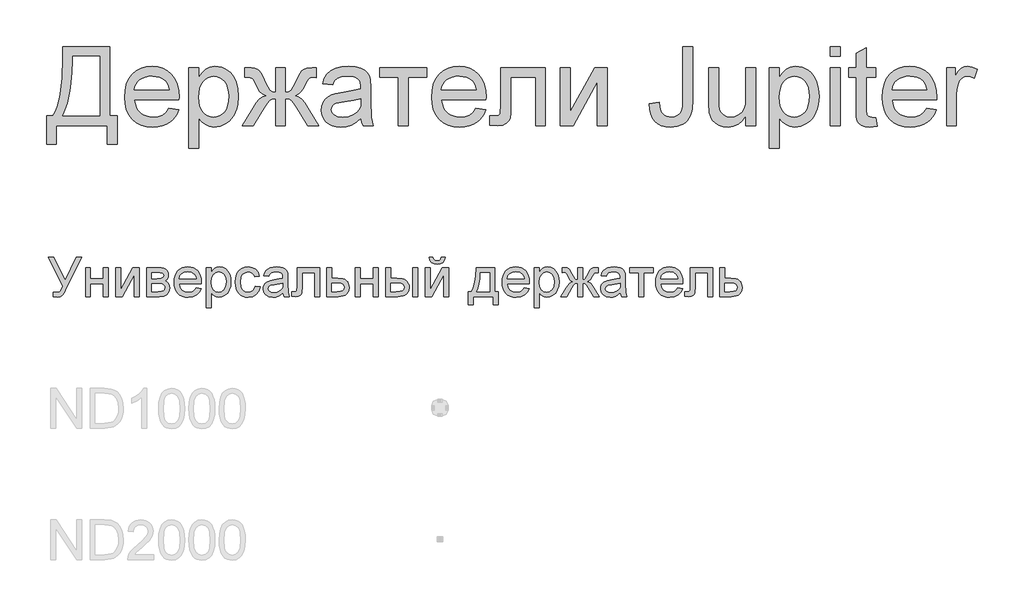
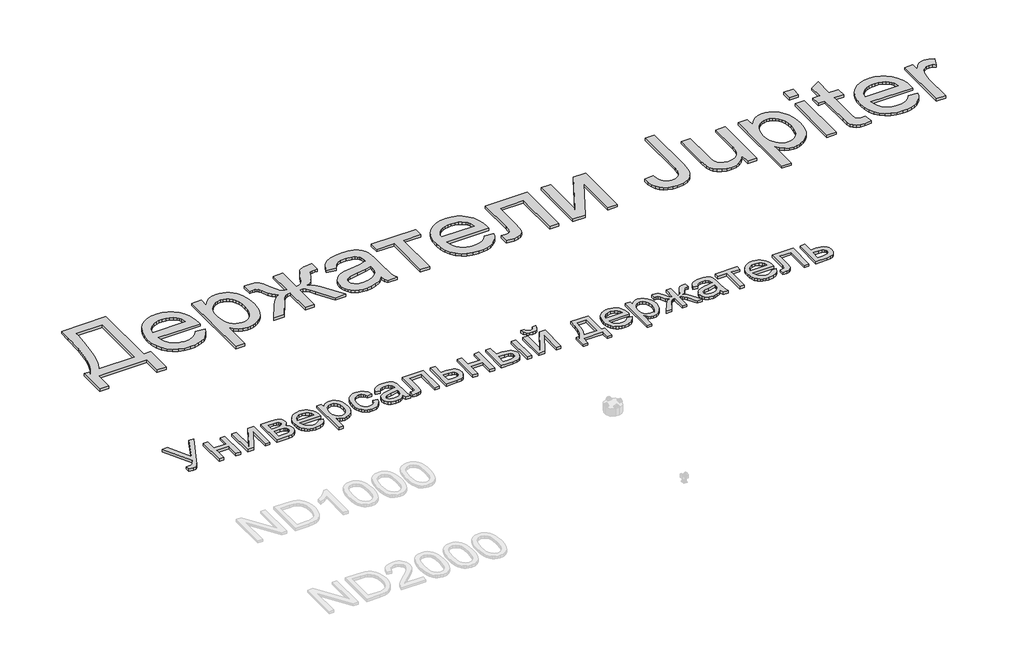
# One storey, part 101 of 124: 2 proxies.
"""IFC4 building model written with IfcOpenShell, lengths in millimetres."""

from ifc_helpers import new_model, si_unit, origin, origin_with_axes, place, context, project, spatial, polyline, outline, extrude, element, save

model = new_model("IFC4")

# Units and contexts
model_context = context("Model", 3, world=origin())
ifc_project = project(units=[si_unit("LENGTHUNIT", "METRE", prefix="MILLI")], contexts=[model_context])

# Site, building, storey
site = spatial("IfcSite", under=ifc_project)
building = spatial("IfcBuilding", under=site)
storey = spatial("IfcBuildingStorey", under=building, Name="Этаж 01", Elevation=0.0)

# Proxies
placement = place(None, origin())
element("IfcBuildingElementProxy", 1, Name="600 мм Arial", ObjectType="600 мм Arial", at=placement, inside=storey, context=model_context, shape_type="SweptSolid", body=[
    extrude(outline(polyline([(14229.6360288, -2616.7762424), (14587.5116337, -2616.7762424), (14587.5116337, -3144.1718706), (14644.0183081, -3144.1718706), (14644.0183081, -3360.7807894), (14568.6760755, -3360.7807894), (14568.6760755, -3219.5141033), (14182.5471334, -3219.5141033), (14182.5471334, -3360.7807894), (14107.2049008, -3360.7807894), (14107.2049008, -3144.1718706), (14154.2937961, -3144.1718706), (14171.9521319, -3113.4744174), (14187.2560229, -3075.828593), (14200.2054691, -3031.2343974), (14210.8004706, -2979.6918306), (14224.9271392, -2855.7615835), (14229.6360288, -2704.0378516), (14229.6360288, -2616.7762424)]), holes=[polyline([(14512.1694011, -2692.118475), (14304.9782614, -2692.118475), (14304.9782614, -2722.4319514), (14301.1522886, -2811.790488), (14289.6743704, -2928.8873271), (14280.1830149, -2991.4548574), (14267.0128395, -3048.1914581), (14250.1638441, -3099.0971292), (14229.6360288, -3144.1718706), (14512.1694011, -3144.1718706), (14512.1694011, -2692.118475)])]), origin_with_axes(), (0.0, 0.0, 1.0), 20.0),
    extrude(outline(polyline([(15038.6821125, -3087.6651962), (15112.5528172, -3097.0829753), (15101.2266503, -3126.6698847), (15085.9365548, -3152.7435211), (15066.6825309, -3175.3038845), (15043.4645785, -3194.3509748), (15016.5218209, -3209.4801218), (14986.0933813, -3220.2866555), (14952.1792599, -3226.7705756), (14914.7794566, -3228.9318823), (14868.030852, -3225.2024786), (14826.3774131, -3214.0142674), (14789.8191399, -3195.3672488), (14758.3560322, -3169.2614227), (14733.054948, -3136.4233561), (14714.982745, -3097.579616), (14704.1394232, -3052.7302022), (14700.5249826, -3001.8751149), (14704.1762114, -2949.2955808), (14715.1298978, -2902.9516464), (14733.3860418, -2862.8433119), (14758.9446434, -2828.9705772), (14790.3249776, -2802.0600092), (14826.0463193, -2782.838175), (14866.1086686, -2771.3050744), (14910.5120254, -2767.4607076), (14953.485241, -2771.2958774), (14992.3473753, -2782.8013868), (15027.0984282, -2801.9772358), (15057.7383999, -2828.8234244), (15082.749777, -2862.6225827), (15100.6150464, -2902.6573408), (15111.3342081, -2948.9276988), (15114.9072619, -3001.4336565), (15114.4658036, -3021.7407427), (14775.8672152, -3021.7407427), (14780.2312154, -3051.8058987), (14788.9086319, -3078.1370525), (14801.8994649, -3100.7342041), (14819.2037142, -3119.5973534), (14839.8648868, -3134.468983), (14862.9264894, -3145.0915756), (14888.3885219, -3151.4651312), (14916.2509846, -3153.5896497), (14956.350122, -3149.6533124), (14990.1216892, -3137.8443003), (15017.565686, -3117.4268496), (15038.6821125, -3087.6651962)]), holes=[polyline([(14775.8672152, -2946.39851), (15039.5650293, -2946.39851), (15029.3746981, -2906.5936782), (15020.6099095, -2890.9402993), (15009.3987057, -2878.1196117), (14988.8524963, -2862.6685679), (14965.4735955, -2851.6321081), (14939.2620034, -2845.0102322), (14910.2177198, -2842.8029402), (14883.7256177, -2844.5641753), (14859.4316104, -2849.8478804), (14837.3356981, -2858.6540557), (14817.4378806, -2870.982701), (14800.7406366, -2886.2635994), (14788.2464443, -2903.9265337), (14779.9553039, -2923.9715039), (14775.8672152, -2946.39851)])]), origin_with_axes(), (0.0, 0.0, 1.0), 20.0),
    extrude(outline(polyline([(15190.2494946, -3389.0341266), (15190.2494946, -2776.8784867), (15265.5917272, -2776.8784867), (15265.5917272, -2850.7491913), (15290.1662445, -2814.3104797), (15317.6838177, -2788.2828285), (15349.7631277, -2772.6662378), (15388.0228552, -2767.4607076), (15414.2988267, -2769.2817235), (15438.9745115, -2774.7447711), (15462.0499096, -2783.8498505), (15483.5250211, -2796.5969616), (15502.9307964, -2812.6550107), (15519.7981858, -2831.6929039), (15534.1271896, -2853.7106414), (15545.9178075, -2878.7082229), (15561.6999451, -2934.221616), (15566.9606576, -2994.8117806), (15561.0193634, -3059.2463121), (15553.5927456, -3088.9113964), (15543.1954807, -3116.8750266), (15529.970123, -3142.4060371), (15514.0592267, -3164.7732624), (15495.4627919, -3183.9767025), (15474.1808184, -3200.0163575), (15451.2571716, -3212.6668996), (15427.7357165, -3221.7030011), (15403.6164532, -3227.124662), (15378.8993817, -3228.9318823), (15344.2632918, -3224.0942341), (15313.3428101, -3209.5812894), (15286.8737006, -3187.6739166), (15265.5917272, -3160.652984), (15265.5917272, -3389.0341266), (15190.2494946, -3389.0341266)]), holes=[polyline([(15265.5917272, -3001.7279621), (15267.6288737, -3038.037915), (15273.7403134, -3069.2710964), (15283.9260461, -3095.4275063), (15298.1860719, -3116.5071446), (15315.3523655, -3132.7307406), (15334.2569016, -3144.3190234), (15354.89968, -3151.2719932), (15377.2807009, -3153.5896497), (15399.9836185, -3151.1892197), (15421.003476, -3143.9879297), (15440.3402734, -3131.9857796), (15457.9940107, -3115.1827694), (15472.7046919, -3093.339776), (15483.2123214, -3066.2176759), (15489.5168991, -3033.8164691), (15491.618425, -2996.1361558), (15489.5674829, -2960.1389026), (15483.4146565, -2928.9609035), (15473.1599459, -2902.6021585), (15458.803351, -2881.0626677), (15441.5956707, -2864.3240369), (15422.7877037, -2852.3678721), (15402.37945, -2845.1941732), (15380.3709097, -2842.8029402), (15358.4313472, -2845.3459245), (15337.7885687, -2852.9748774), (15318.4425743, -2865.6897988), (15300.3933639, -2883.4906889), (15285.1676478, -2906.1384242), (15274.2921364, -2933.3938815), (15267.7668295, -2965.2570608), (15265.5917272, -3001.7279621)])]), origin_with_axes(), (0.0, 0.0, 1.0), 20.0),
    extrude(outline(polyline([(15924.8362625, -2776.8784867), (15924.8362625, -2965.2340682), (15951.4157367, -2961.3529131), (15968.7613728, -2949.709448), (15985.5183976, -2921.8055987), (16010.3320382, -2869.1432911), (16036.2677189, -2818.9273987), (16048.3802336, -2802.5106647), (16059.9225312, -2791.8880721), (16088.654115, -2780.630883), (16130.4087214, -2776.8784867), (16160.2807394, -2776.8784867), (16160.2807394, -2852.6621777), (16139.5321949, -2852.2207193), (16114.663372, -2854.1704939), (16100.6838562, -2860.0198176), (16089.5370318, -2876.3537782), (16073.7548942, -2908.8745465), (16057.4761159, -2941.6160441), (16042.4849246, -2962.438165), (16024.1460071, -2976.6751982), (15997.8240504, -2989.6614327), (16022.6100998, -3000.2656312), (16047.0834495, -3018.9816277), (16071.2440996, -3045.8094222), (16095.0920499, -3080.7490147), (16179.1162976, -3219.5141033), (16092.7376051, -3219.5141033), (16010.0377326, -3082.6620011), (15987.431384, -3046.7383242), (15967.878456, -3025.7874446), (15948.1047987, -3015.6890838), (15924.8362625, -3012.3229636), (15924.8362625, -3219.5141033), (15849.4940299, -3219.5141033), (15849.4940299, -3012.3229636), (15826.4094347, -3015.6155074), (15806.5989893, -3025.493139), (15786.8989084, -3046.2968658), (15764.145407, -3082.3676955), (15681.4455345, -3219.5141033), (15595.2139949, -3219.5141033), (15678.943937, -3080.7490147), (15702.9942224, -3045.8094222), (15727.3204193, -3018.9816277), (15751.9225277, -3000.2656312), (15776.8005477, -2989.6614327), (15748.0321756, -2975.2404585), (15729.4173467, -2959.6422619), (15712.4947749, -2932.2350532), (15688.8031744, -2882.3870429), (15679.2014544, -2865.7955649), (15668.9375467, -2856.9296088), (15655.3627011, -2853.0668479), (15636.4167783, -2851.7792609), (15614.049553, -2852.2207193), (15614.049553, -2776.8784867), (15625.3803185, -2776.8784867), (15665.3690913, -2778.055709), (15691.4519248, -2781.5873762), (15709.5885072, -2788.9450161), (15725.7385267, -2801.6001567), (15742.9186159, -2826.1378858), (15764.145407, -2869.1432911), (15788.7015302, -2921.1618052), (15805.2746141, -2949.1944132), (15822.6202502, -2961.2241544), (15849.4940299, -2965.2340682), (15849.4940299, -2776.8784867), (15924.8362625, -2776.8784867)])), origin_with_axes(), (0.0, 0.0, 1.0), 20.0),
    extrude(outline(polyline([(16499.3207862, -3163.0074288), (16463.323533, -3193.8727282), (16426.259422, -3214.0694497), (16387.2823246, -3225.2162742), (16345.5461122, -3228.9318823), (16311.9998728, -3226.6969992), (16282.5831087, -3219.9923499), (16257.2958201, -3208.8179343), (16236.1380068, -3193.1737524), (16219.4315657, -3174.0530857), (16207.4983935, -3152.4492155), (16200.3384902, -3128.3621419), (16197.9518557, -3101.7918648), (16201.5570993, -3070.5586834), (16212.37283, -3042.1949816), (16229.0562784, -3017.9147699), (16250.2646755, -2998.932059), (16275.1886806, -2984.5846611), (16303.0189536, -2974.2103889), (16368.2076431, -2962.8796234), (16445.2421329, -2950.9602468), (16498.8793278, -2936.980731), (16499.3207862, -2920.205312), (16494.1336501, -2886.5808976), (16487.6497299, -2874.1280921), (16478.5722417, -2864.5815543), (16462.8820746, -2855.0534106), (16443.7706049, -2848.2475937), (16395.283758, -2842.8029402), (16350.4021546, -2846.4265779), (16319.0586086, -2857.2974908), (16297.6846646, -2877.4022418), (16282.7118674, -2908.7273937), (16207.3696348, -2899.3096147), (16220.4478398, -2858.1068312), (16239.9639796, -2825.7332156), (16267.7390702, -2800.9747573), (16305.5941275, -2782.6174458), (16351.8920766, -2771.2498921), (16404.9958426, -2767.4607076), (16455.9291049, -2770.8084337), (16496.3041538, -2780.8516122), (16526.7463889, -2795.9531681), (16547.8812096, -2814.4760266), (16561.8975136, -2837.3766808), (16570.9841989, -2865.6116239), (16574.6630188, -2931.5360774), (16574.6630188, -3025.2724098), (16578.4889916, -3156.1648237), (16584.1543743, -3188.5200452), (16593.498577, -3219.5141033), (16518.1563444, -3219.5141033), (16506.0898149, -3193.3209052), (16499.3207862, -3163.0074288)]), holes=[polyline([(16499.3207862, -3012.3229636), (16448.7002237, -3024.8677396), (16377.772575, -3035.4259529), (16312.9517674, -3047.6396351), (16296.084378, -3055.9905564), (16283.5947842, -3067.5052629), (16275.8692623, -3081.3008377), (16273.2940884, -3096.4943641), (16278.9042888, -3118.8983776), (16295.7348901, -3137.2556891), (16323.4180102, -3149.5061596), (16361.5857672, -3153.5896497), (16402.0527867, -3149.0830953), (16437.8109166, -3135.563432), (16466.8000178, -3115.6426219), (16486.9599512, -3091.9326273), (16495.8994836, -3067.5052629), (16498.8793278, -3033.6601193), (16499.3207862, -3012.3229636)])]), origin_with_axes(), (0.0, 0.0, 1.0), 20.0),
    extrude(outline(polyline([(16640.5874723, -2776.8784867), (16998.4630773, -2776.8784867), (16998.4630773, -2852.2207193), (16857.1963911, -2852.2207193), (16857.1963911, -3219.5141033), (16781.8541585, -3219.5141033), (16781.8541585, -2852.2207193), (16640.5874723, -2852.2207193), (16640.5874723, -2776.8784867)])), origin_with_axes(), (0.0, 0.0, 1.0), 20.0),
    extrude(outline(polyline([(17374.2913235, -3087.6651962), (17448.1620282, -3097.0829753), (17436.8358612, -3126.6698847), (17421.5457658, -3152.7435211), (17402.2917419, -3175.3038845), (17379.0737895, -3194.3509748), (17352.1310318, -3209.4801218), (17321.7025923, -3220.2866555), (17287.7884709, -3226.7705756), (17250.3886676, -3228.9318823), (17203.640063, -3225.2024786), (17161.9866241, -3214.0142674), (17125.4283508, -3195.3672488), (17093.9652432, -3169.2614227), (17068.664159, -3136.4233561), (17050.591956, -3097.579616), (17039.7486342, -3052.7302022), (17036.1341936, -3001.8751149), (17039.7854224, -2949.2955808), (17050.7391088, -2902.9516464), (17068.9952528, -2862.8433119), (17094.5538544, -2828.9705772), (17125.9341886, -2802.0600092), (17161.6555303, -2782.838175), (17201.7178796, -2771.3050744), (17246.1212364, -2767.4607076), (17289.094452, -2771.2958774), (17327.9565862, -2782.8013868), (17362.7076392, -2801.9772358), (17393.3476109, -2828.8234244), (17418.358988, -2862.6225827), (17436.2242574, -2902.6573408), (17446.943419, -2948.9276988), (17450.5164729, -3001.4336565), (17450.0750145, -3021.7407427), (17111.4764262, -3021.7407427), (17115.8404263, -3051.8058987), (17124.5178429, -3078.1370525), (17137.5086759, -3100.7342041), (17154.8129252, -3119.5973534), (17175.4740978, -3134.468983), (17198.5357003, -3145.0915756), (17223.9977329, -3151.4651312), (17251.8601955, -3153.5896497), (17291.959333, -3149.6533124), (17325.7309002, -3137.8443003), (17353.174897, -3117.4268496), (17374.2913235, -3087.6651962)]), holes=[polyline([(17111.4764262, -2946.39851), (17375.1742403, -2946.39851), (17364.983909, -2906.5936782), (17356.2191205, -2890.9402993), (17345.0079167, -2878.1196117), (17324.4617073, -2862.6685679), (17301.0828065, -2851.6321081), (17274.8712143, -2845.0102322), (17245.8269308, -2842.8029402), (17219.3348286, -2844.5641753), (17195.0408214, -2849.8478804), (17172.944909, -2858.6540557), (17153.0470916, -2870.982701), (17136.3498476, -2886.2635994), (17123.8556553, -2903.9265337), (17115.5645148, -2923.9715039), (17111.4764262, -2946.39851)])]), origin_with_axes(), (0.0, 0.0, 1.0), 20.0),
    extrude(outline(polyline([(17563.5298218, -2776.8784867), (17902.5698686, -2776.8784867), (17902.5698686, -3219.0726449), (17827.227636, -3219.0726449), (17827.227636, -2852.2207193), (17638.8720545, -2852.2207193), (17638.8720545, -3063.3849845), (17637.6028616, -3124.6741249), (17633.7952829, -3160.8001368), (17624.2855333, -3182.8546624), (17605.9098277, -3201.9293439), (17578.0243725, -3215.1179134), (17539.9853742, -3219.5141033), (17478.7698102, -3215.6881305), (17478.7698102, -3144.1718706), (17512.4678009, -3144.1718706), (17532.9036457, -3143.0130424), (17546.5336737, -3139.5365575), (17555.0501419, -3133.540081), (17560.1453075, -3124.8212777), (17563.5298218, -3059.1175534), (17563.5298218, -2776.8784867)])), origin_with_axes(), (0.0, 0.0, 1.0), 20.0),
    extrude(outline(polyline([(18015.5832175, -2776.8784867), (18090.9254501, -2776.8784867), (18090.9254501, -3114.4470054), (18276.0436701, -2776.8784867), (18373.4588224, -2776.8784867), (18373.4588224, -3219.5141033), (18298.1165898, -3219.5141033), (18298.1165898, -2884.0057237), (18114.1755922, -3219.5141033), (18015.5832175, -3219.5141033), (18015.5832175, -2776.8784867)])), origin_with_axes(), (0.0, 0.0, 1.0), 20.0),
    extrude(outline(polyline([(18693.663311, -3050.2883855), (18769.0055436, -3040.5763008), (18771.6634911, -3070.5310923), (18776.8414301, -3095.3539299), (18784.5393609, -3115.0448137), (18794.7572833, -3129.6037436), (18807.3388475, -3140.0975776), (18822.1277037, -3147.5931732), (18839.1238519, -3152.0905306), (18858.3272921, -3153.5896497), (18886.157565, -3150.1867413), (18909.9043478, -3139.9780159), (18928.2248712, -3123.9015727), (18939.7763658, -3102.8955108), (18945.901601, -3072.4900639), (18947.9433461, -3028.2154658), (18947.9433461, -2616.7762424), (19023.2855787, -2616.7762424), (19023.2855787, -3026.8910906), (19018.7422361, -3093.9743724), (19013.0630578, -3121.101071), (19005.1122081, -3143.9511415), (18994.6919506, -3163.4350916), (18981.6045487, -3180.4634295), (18965.8500022, -3195.036155), (18947.4283113, -3207.1532682), (18904.5148766, -3223.4872288), (18854.7956249, -3228.9318823), (18817.6671346, -3226.1221836), (18785.1555632, -3217.6930874), (18757.2609109, -3203.6445937), (18733.9831777, -3183.9767025), (18715.7362307, -3158.7629903), (18702.9339373, -3128.0770334), (18695.5762974, -3091.9188318), (18693.663311, -3050.2883855)])), origin_with_axes(), (0.0, 0.0, 1.0), 20.0),
    extrude(outline(polyline([(19428.250079, -3219.5141033), (19428.250079, -3143.4361067), (19400.9900232, -3180.8405085), (19369.241807, -3207.5579384), (19333.0054304, -3223.5883964), (19292.2808936, -3228.9318823), (19255.5846646, -3225.179486), (19221.4268213, -3213.9222969), (19192.7688139, -3196.9997252), (19172.5720923, -3176.2511806), (19158.9788526, -3151.051264), (19150.1312906, -3120.7745758), (19145.7167067, -3050.7298439), (19145.7167067, -2776.8784867), (19221.0589393, -2776.8784867), (19221.0589393, -3015.2660195), (19222.1993735, -3062.9435261), (19225.6206761, -3092.0797801), (19236.6019536, -3117.7027611), (19255.4191177, -3137.1821127), (19280.8213694, -3149.4877655), (19311.5579101, -3153.5896497), (19344.0602844, -3149.395795), (19374.4657313, -3136.8142307), (19399.5368893, -3117.0037853), (19416.0363968, -3091.1232869), (19425.1966584, -3055.6778567), (19428.250079, -3007.1726156), (19428.250079, -2776.8784867), (19503.5923116, -2776.8784867), (19503.5923116, -3219.5141033), (19428.250079, -3219.5141033)])), origin_with_axes(), (0.0, 0.0, 1.0), 20.0),
    extrude(outline(polyline([(19607.1878815, -3389.0341266), (19607.1878815, -2776.8784867), (19682.5301141, -2776.8784867), (19682.5301141, -2850.7491913), (19707.1046313, -2814.3104797), (19734.6222046, -2788.2828285), (19766.7015146, -2772.6662378), (19804.9612421, -2767.4607076), (19831.2372136, -2769.2817235), (19855.9128984, -2774.7447711), (19878.9882965, -2783.8498505), (19900.463408, -2796.5969616), (19919.8691833, -2812.6550107), (19936.7365727, -2831.6929039), (19951.0655764, -2853.7106414), (19962.8561944, -2878.7082229), (19978.638332, -2934.221616), (19983.8990445, -2994.8117806), (19977.9577503, -3059.2463121), (19970.5311325, -3088.9113964), (19960.1338676, -3116.8750266), (19946.9085099, -3142.4060371), (19930.9976136, -3164.7732624), (19912.4011787, -3183.9767025), (19891.1192053, -3200.0163575), (19868.1955585, -3212.6668996), (19844.6741034, -3221.7030011), (19820.5548401, -3227.124662), (19795.8377686, -3228.9318823), (19761.2016787, -3224.0942341), (19730.281197, -3209.5812894), (19703.8120875, -3187.6739166), (19682.5301141, -3160.652984), (19682.5301141, -3389.0341266), (19607.1878815, -3389.0341266)]), holes=[polyline([(19682.5301141, -3001.7279621), (19684.5672606, -3038.037915), (19690.6787003, -3069.2710964), (19700.864433, -3095.4275063), (19715.1244588, -3116.5071446), (19732.2907524, -3132.7307406), (19751.1952885, -3144.3190234), (19771.8380669, -3151.2719932), (19794.2190878, -3153.5896497), (19816.9220054, -3151.1892197), (19837.9418629, -3143.9879297), (19857.2786603, -3131.9857796), (19874.9323975, -3115.1827694), (19889.6430788, -3093.339776), (19900.1507083, -3066.2176759), (19906.455286, -3033.8164691), (19908.5568119, -2996.1361558), (19906.5058698, -2960.1389026), (19900.3530434, -2928.9609035), (19890.0983328, -2902.6021585), (19875.7417379, -2881.0626677), (19858.5340576, -2864.3240369), (19839.7260906, -2852.3678721), (19819.3178369, -2845.1941732), (19797.3092966, -2842.8029402), (19775.3697341, -2845.3459245), (19754.7269556, -2852.9748774), (19735.3809612, -2865.6897988), (19717.3317508, -2883.4906889), (19702.1060347, -2906.1384242), (19691.2305232, -2933.3938815), (19684.7052164, -2965.2570608), (19682.5301141, -3001.7279621)])]), origin_with_axes(), (0.0, 0.0, 1.0), 20.0),
    extrude(outline(polyline([(20068.6590562, -2692.118475), (20068.6590562, -2616.7762424), (20144.0012888, -2616.7762424), (20144.0012888, -2692.118475), (20068.6590562, -2692.118475)])), origin_with_axes(), (0.0, 0.0, 1.0), 20.0),
    extrude(outline(polyline([(20068.6590562, -3219.5141033), (20068.6590562, -2776.8784867), (20144.0012888, -2776.8784867), (20144.0012888, -3219.5141033), (20068.6590562, -3219.5141033)])), origin_with_axes(), (0.0, 0.0, 1.0), 20.0),
    extrude(outline(polyline([(20417.116882, -3156.6798585), (20426.5346611, -3221.7213952), (20370.1751394, -3228.9318823), (20334.0123393, -3225.8048854), (20307.0465891, -3216.4238945), (20287.9903017, -3201.9661321), (20275.5558903, -3183.6088205), (20268.7132852, -3152.0813335), (20266.4324168, -3098.1130449), (20266.4324168, -2852.2207193), (20209.9257423, -2852.2207193), (20209.9257423, -2776.8784867), (20266.4324168, -2776.8784867), (20266.4324168, -2669.3097913), (20341.7746494, -2625.0167991), (20341.7746494, -2776.8784867), (20417.116882, -2776.8784867), (20417.116882, -2852.2207193), (20341.7746494, -2852.2207193), (20341.7746494, -3095.9057529), (20345.747775, -3134.7540916), (20358.6236448, -3148.5128782), (20369.4945578, -3152.3204568), (20384.3018081, -3153.5896497), (20417.116882, -3156.6798585)])), origin_with_axes(), (0.0, 0.0, 1.0), 20.0),
    extrude(outline(polyline([(20802.3629074, -3087.6651962), (20876.233612, -3097.0829753), (20864.9074451, -3126.6698847), (20849.6173497, -3152.7435211), (20830.3633257, -3175.3038845), (20807.1453733, -3194.3509748), (20780.2026157, -3209.4801218), (20749.7741762, -3220.2866555), (20715.8600547, -3226.7705756), (20678.4602514, -3228.9318823), (20631.7116469, -3225.2024786), (20590.058208, -3214.0142674), (20553.4999347, -3195.3672488), (20522.0368271, -3169.2614227), (20496.7357428, -3136.4233561), (20478.6635398, -3097.579616), (20467.820218, -3052.7302022), (20464.2057774, -3001.8751149), (20467.8570062, -2949.2955808), (20478.8106926, -2902.9516464), (20497.0668366, -2862.8433119), (20522.6254382, -2828.9705772), (20554.0057724, -2802.0600092), (20589.7271142, -2782.838175), (20629.7894634, -2771.3050744), (20674.1928203, -2767.4607076), (20717.1660358, -2771.2958774), (20756.0281701, -2782.8013868), (20790.7792231, -2801.9772358), (20821.4191947, -2828.8234244), (20846.4305719, -2862.6225827), (20864.2958413, -2902.6573408), (20875.0150029, -2948.9276988), (20878.5880568, -3001.4336565), (20878.1465984, -3021.7407427), (20539.54801, -3021.7407427), (20543.9120102, -3051.8058987), (20552.5894268, -3078.1370525), (20565.5802597, -3100.7342041), (20582.8845091, -3119.5973534), (20603.5456816, -3134.468983), (20626.6072842, -3145.0915756), (20652.0693168, -3151.4651312), (20679.9317794, -3153.5896497), (20720.0309169, -3149.6533124), (20753.802484, -3137.8443003), (20781.2464809, -3117.4268496), (20802.3629074, -3087.6651962)]), holes=[polyline([(20539.54801, -2946.39851), (20803.2458242, -2946.39851), (20793.0554929, -2906.5936782), (20784.2907044, -2890.9402993), (20773.0795006, -2878.1196117), (20752.5332911, -2862.6685679), (20729.1543903, -2851.6321081), (20702.9427982, -2845.0102322), (20673.8985147, -2842.8029402), (20647.4064125, -2844.5641753), (20623.1124052, -2849.8478804), (20601.0164929, -2858.6540557), (20581.1186755, -2870.982701), (20564.4214314, -2886.2635994), (20551.9272392, -2903.9265337), (20543.6360987, -2923.9715039), (20539.54801, -2946.39851)])]), origin_with_axes(), (0.0, 0.0, 1.0), 20.0),
    extrude(outline(polyline([(20953.9302894, -3219.5141033), (20953.9302894, -2776.8784867), (21019.8547429, -2776.8784867), (21019.8547429, -2842.3614818), (21044.208531, -2804.3960599), (21066.6493327, -2782.0288346), (21089.1637108, -2771.1027393), (21113.7382281, -2767.4607076), (21151.2621916, -2773.2732431), (21189.3747663, -2790.7108497), (21164.2116378, -2858.253984), (21137.7241342, -2846.6657011), (21111.2366305, -2842.8029402), (21088.7406465, -2846.5185484), (21068.6358955, -2857.6653728), (21052.3939054, -2875.397285), (21041.4862042, -2898.8681563), (21032.3259426, -2940.9538565), (21029.272522, -2986.8655295), (21029.272522, -3219.5141033), (20953.9302894, -3219.5141033)])), origin_with_axes(), (0.0, 0.0, 1.0), 20.0),
])
element("IfcBuildingElementProxy", 2, Name="300", ObjectType="300", at=placement, inside=storey, context=model_context, shape_type="SweptSolid", body=[
    extrude(outline(polyline([(14118.9771246, -4218.1451728), (14160.6949429, -4218.1451728), (14250.8260317, -4396.6415169), (14331.9072234, -4218.1451728), (14373.2571597, -4218.1451728), (14258.8458592, -4452.9274621), (14241.5737995, -4489.3845679), (14227.7230424, -4510.611359), (14212.9525803, -4520.8200843), (14192.9214056, -4524.2229928), (14159.0026857, -4519.5141033), (14159.0026857, -4486.5518765), (14188.6539745, -4486.5518765), (14200.5181688, -4484.4549491), (14210.6533178, -4478.164167), (14220.3837966, -4464.4237745), (14231.0339803, -4439.9780159), (14118.9771246, -4218.1451728)])), origin_with_axes(), (0.0, 0.0, 1.0), 20.0),
    extrude(outline(polyline([(14403.8649417, -4298.196295), (14441.536058, -4298.196295), (14441.536058, -4382.9563067), (14540.4227383, -4382.9563067), (14540.4227383, -4298.196295), (14578.0938546, -4298.196295), (14578.0938546, -4519.5141033), (14540.4227383, -4519.5141033), (14540.4227383, -4420.627423), (14441.536058, -4420.627423), (14441.536058, -4519.5141033), (14403.8649417, -4519.5141033), (14403.8649417, -4298.196295)])), origin_with_axes(), (0.0, 0.0, 1.0), 20.0),
    extrude(outline(polyline([(14634.600529, -4298.196295), (14672.2716454, -4298.196295), (14672.2716454, -4466.9805543), (14764.8307553, -4298.196295), (14813.5383315, -4298.196295), (14813.5383315, -4519.5141033), (14775.8672152, -4519.5141033), (14775.8672152, -4351.7599135), (14683.8967164, -4519.5141033), (14634.600529, -4519.5141033), (14634.600529, -4298.196295)])), origin_with_axes(), (0.0, 0.0, 1.0), 20.0),
    extrude(outline(polyline([(14870.045006, -4298.196295), (14953.0391841, -4298.196295), (14979.7198258, -4299.4562908), (14998.5461869, -4303.2362783), (15012.396944, -4310.373189), (15024.1507737, -4321.7039545), (15032.1797983, -4336.4652195), (15034.8561398, -4353.893629), (15033.237459, -4367.9375242), (15028.3814167, -4380.0500389), (15020.2696187, -4390.2863554), (15008.8836709, -4398.701656), (15022.8263986, -4406.5283455), (15034.1939522, -4419.1191068), (15041.7539272, -4435.4806585), (15044.2739189, -4454.6197193), (15037.8911663, -4483.332909), (15022.716034, -4503.5480247), (14998.6933397, -4515.5225836), (14965.7679011, -4519.5141033), (14870.045006, -4519.5141033), (14870.045006, -4298.196295)]), holes=[polyline([(14907.7161223, -4382.9563067), (14944.9457802, -4382.9563067), (14975.6639268, -4381.0433203), (14990.5999358, -4373.3913748), (14995.5387516, -4367.0638045), (14997.1850235, -4359.5590118), (14994.2971498, -4348.3202168), (14985.6335288, -4341.0913356), (14969.9801499, -4337.1733924), (14946.1230026, -4335.8674113), (14907.7161223, -4335.8674113), (14907.7161223, -4382.9563067)]), polyline([(14907.7161223, -4481.842987), (14953.9221009, -4481.842987), (14979.1036234, -4480.1415327), (14994.9041551, -4475.03717), (15003.3838351, -4465.7573467), (15006.6028026, -4451.5295106), (15004.9933188, -4442.1025344), (15000.1648677, -4433.3929282), (14992.7520455, -4426.5779142), (14983.3894487, -4422.8347149), (14950.2432809, -4420.627423), (14907.7161223, -4420.627423), (14907.7161223, -4481.842987)])]), origin_with_axes(), (0.0, 0.0, 1.0), 20.0),
    extrude(outline(polyline([(15246.3147106, -4453.5896497), (15283.2500629, -4458.2985393), (15269.9419318, -4486.1288122), (15248.7059436, -4506.932539), (15220.020345, -4519.9003794), (15184.3633826, -4524.2229928), (15160.9890804, -4522.3582909), (15140.1623609, -4516.7641853), (15121.8832243, -4507.440676), (15106.1516705, -4494.387763), (15093.5011284, -4477.9687297), (15084.4650268, -4458.5468596), (15079.0433659, -4436.1221527), (15077.2361456, -4410.6946091), (15079.06176, -4384.404842), (15084.5386032, -4361.2328748), (15093.6666753, -4341.1787076), (15106.4459761, -4324.2423402), (15122.1361432, -4310.7870562), (15139.996814, -4301.1761391), (15160.0279887, -4295.4095888), (15182.2296671, -4293.4874054), (15203.7162748, -4295.4049903), (15223.147342, -4301.157745), (15240.5228685, -4310.7456695), (15255.8428543, -4324.1687638), (15268.3485429, -4341.068343), (15277.2811776, -4361.085722), (15282.6407584, -4384.220901), (15284.4272853, -4410.4738799), (15284.2065561, -4420.627423), (15114.9072619, -4420.627423), (15121.4279703, -4448.8255779), (15136.5755115, -4469.5557283), (15158.436899, -4482.3028394), (15185.0991466, -4486.5518765), (15205.1487154, -4484.5837078), (15222.0344989, -4478.6792018), (15235.7564974, -4468.4704764), (15246.3147106, -4453.5896497)]), holes=[polyline([(15114.9072619, -4382.9563067), (15246.756169, -4382.9563067), (15241.6610034, -4363.0538907), (15231.6730072, -4348.8168575), (15209.7104521, -4335.5731057), (15182.0825143, -4331.1585217), (15156.6894596, -4334.6809918), (15135.6925947, -4345.2484021), (15121.0968765, -4361.7203185), (15114.9072619, -4382.9563067)])]), origin_with_axes(), (0.0, 0.0, 1.0), 20.0),
    extrude(outline(polyline([(15322.0984016, -4604.2741149), (15322.0984016, -4298.196295), (15359.7695179, -4298.196295), (15359.7695179, -4335.1316473), (15372.0567766, -4316.9122915), (15385.8155632, -4303.8984659), (15401.8552182, -4296.0901705), (15420.9850819, -4293.4874054), (15446.4609101, -4297.1294372), (15468.7361649, -4308.0555324), (15486.8727473, -4325.6035036), (15499.9325581, -4349.1111631), (15507.8236269, -4376.8678596), (15510.4539832, -4407.1629419), (15507.4833361, -4439.3802077), (15498.5713947, -4468.1945649), (15484.0032677, -4492.1436828), (15464.0640636, -4509.7652304), (15440.8415126, -4520.6085522), (15416.4233452, -4524.2229928), (15399.1053003, -4521.8041687), (15383.6450594, -4514.5476963), (15370.4105046, -4503.5940099), (15359.7695179, -4490.0835436), (15359.7695179, -4604.2741149), (15322.0984016, -4604.2741149)]), holes=[polyline([(15359.7695179, -4410.6210327), (15363.843811, -4444.3925998), (15376.0666903, -4468.0106239), (15394.1021051, -4481.9165634), (15415.6140048, -4486.5518765), (15437.4753924, -4481.7510165), (15455.9706597, -4467.3484363), (15468.5798151, -4442.8658896), (15472.7828669, -4407.8251295), (15468.6809826, -4374.2375034), (15456.3753299, -4350.2883855), (15438.3675062, -4335.9409877), (15417.1591092, -4331.1585217), (15395.8679387, -4336.2444903), (15377.1703363, -4351.5023961), (15364.1197225, -4376.4539924), (15359.7695179, -4410.6210327)])]), origin_with_axes(), (0.0, 0.0, 1.0), 20.0),
    extrude(outline(polyline([(15694.1006752, -4439.4629811), (15731.7717915, -4444.1718706), (15721.2687605, -4477.6767234), (15701.5318915, -4502.9962017), (15674.4189884, -4518.916295), (15641.7878554, -4524.2229928), (15620.6599326, -4522.3720865), (15601.7163091, -4516.8193676), (15584.956985, -4507.5648362), (15570.3819602, -4494.6084922), (15558.5844444, -4478.1940574), (15550.1576475, -4458.5652537), (15545.1015693, -4435.7220811), (15543.4162099, -4409.6645395), (15546.2948865, -4376.1412927), (15554.9309164, -4347.0878121), (15569.4622552, -4323.6261379), (15590.0268587, -4306.87831), (15614.6289671, -4296.8351316), (15641.2728206, -4293.4874054), (15673.1038103, -4298.0859304), (15698.5520473, -4311.8815052), (15716.8081913, -4334.1383659), (15727.0629019, -4364.1207485), (15689.3917856, -4368.829638), (15682.5583776, -4352.3945099), (15671.9173908, -4340.613089), (15658.0574367, -4333.5221635), (15641.5671262, -4331.1585217), (15617.2225352, -4335.812229), (15597.8995334, -4349.7733507), (15585.290378, -4373.796045), (15581.0873262, -4408.6344699), (15585.1984075, -4443.9419444), (15597.5316514, -4468.0474121), (15616.5051653, -4481.9257604), (15640.5370567, -4486.5518765), (15660.0439995, -4483.6640028), (15676.0376692, -4475.0003818), (15687.6719373, -4460.3402843), (15694.1006752, -4439.4629811)])), origin_with_axes(), (0.0, 0.0, 1.0), 20.0),
    extrude(outline(polyline([(15906.0007044, -4491.260766), (15888.0020778, -4506.6934157), (15869.4700223, -4516.7917765), (15849.9814736, -4522.3651887), (15829.1133674, -4524.2229928), (15797.6318656, -4519.7532266), (15774.4093147, -4506.3439278), (15760.089508, -4485.9816594), (15755.3162392, -4460.652984), (15757.1188609, -4445.0363933), (15762.5267263, -4430.8545424), (15770.8684505, -4418.7144366), (15781.472649, -4409.2230811), (15807.8497881, -4396.8622461), (15840.4441328, -4391.1968633), (15878.9613777, -4385.237175), (15905.7799752, -4378.2474171), (15906.0007044, -4369.8597076), (15903.4071363, -4353.0475004), (15895.6264321, -4342.0478288), (15878.2256137, -4333.8808485), (15853.9821903, -4331.1585217), (15831.5413886, -4332.9703406), (15815.8696156, -4338.405797), (15805.1826436, -4348.4581726), (15797.696245, -4364.1207485), (15760.0251287, -4359.411859), (15766.5642312, -4338.8104672), (15776.3223011, -4322.6236594), (15790.2098464, -4310.2444303), (15809.137375, -4301.0657745), (15832.2863496, -4295.3819977), (15858.8382326, -4293.4874054), (15884.3048637, -4295.1612685), (15904.4923882, -4300.1828577), (15919.7135057, -4307.7336357), (15930.2809161, -4316.9950649), (15937.2890681, -4328.445392), (15941.8324107, -4342.5628636), (15943.6718207, -4375.5250903), (15943.6718207, -4422.3932565), (15945.5848071, -4487.8394635), (15953.0895998, -4519.5141033), (15915.4184835, -4519.5141033), (15906.0007044, -4491.260766)]), holes=[polyline([(15906.0007044, -4415.9185334), (15845.2265988, -4427.4700281), (15812.816195, -4433.5768692), (15798.1377034, -4443.5096831), (15792.9873555, -4458.0042337), (15795.7924557, -4469.2062404), (15804.2077563, -4478.3848962), (15818.0493164, -4484.5101314), (15837.1331949, -4486.5518765), (15857.3667046, -4484.2985993), (15875.2457696, -4477.5387676), (15889.7403202, -4467.5783626), (15899.8202869, -4455.7233653), (15904.2900531, -4443.5096831), (15905.7799752, -4426.5871113), (15906.0007044, -4415.9185334)])]), origin_with_axes(), (0.0, 0.0, 1.0), 20.0),
    extrude(outline(polyline([(16014.3051638, -4298.196295), (16183.8251871, -4298.196295), (16183.8251871, -4519.2933741), (16146.1540708, -4519.2933741), (16146.1540708, -4335.8674113), (16051.9762801, -4335.8674113), (16051.9762801, -4441.4495439), (16049.4378943, -4490.15712), (16044.6830195, -4501.1843829), (16035.4951667, -4510.7217236), (16021.5524391, -4517.3160083), (16002.5329399, -4519.5141033), (15971.9251579, -4517.6011169), (15971.9251579, -4481.842987), (15988.7741533, -4481.842987), (16005.8070897, -4479.5253304), (16012.6129066, -4472.1676905), (16014.3051638, -4439.3158283), (16014.3051638, -4298.196295)])), origin_with_axes(), (0.0, 0.0, 1.0), 20.0),
    extrude(outline(polyline([(16240.3318616, -4298.196295), (16278.0029779, -4298.196295), (16278.0029779, -4378.2474171), (16321.4130533, -4378.2474171), (16359.0473814, -4382.9655037), (16374.1949226, -4388.8631119), (16386.8960485, -4397.1197635), (16396.9392269, -4407.4503497), (16404.1129258, -4419.5697622), (16409.851885, -4449.1750658), (16404.9682515, -4476.131619), (16390.317351, -4498.8759233), (16379.0854539, -4507.9051271), (16364.9242963, -4514.3545583), (16327.8142, -4519.5141033), (16240.3318616, -4519.5141033), (16240.3318616, -4298.196295)]), holes=[polyline([(16278.0029779, -4481.842987), (16313.1724966, -4481.842987), (16340.4601436, -4479.8656212), (16358.605923, -4473.9335241), (16368.7870573, -4463.8075721), (16372.1807687, -4449.2486422), (16369.669974, -4436.9429894), (16362.1375902, -4426.0720765), (16345.9967677, -4418.4569192), (16317.660657, -4415.9185334), (16278.0029779, -4415.9185334), (16278.0029779, -4481.842987)])]), origin_with_axes(), (0.0, 0.0, 1.0), 20.0),
    extrude(outline(polyline([(16456.9407804, -4298.196295), (16494.6118967, -4298.196295), (16494.6118967, -4382.9563067), (16593.498577, -4382.9563067), (16593.498577, -4298.196295), (16631.1696933, -4298.196295), (16631.1696933, -4519.5141033), (16593.498577, -4519.5141033), (16593.498577, -4420.627423), (16494.6118967, -4420.627423), (16494.6118967, -4519.5141033), (16456.9407804, -4519.5141033), (16456.9407804, -4298.196295)])), origin_with_axes(), (0.0, 0.0, 1.0), 20.0),
    extrude(outline(polyline([(16894.8675074, -4298.196295), (16932.5386237, -4298.196295), (16932.5386237, -4519.5141033), (16894.8675074, -4519.5141033), (16894.8675074, -4298.196295)])), origin_with_axes(), (0.0, 0.0, 1.0), 20.0),
    extrude(outline(polyline([(16687.6763677, -4298.196295), (16725.347484, -4298.196295), (16725.347484, -4378.2474171), (16771.9213446, -4378.2474171), (16812.1768319, -4382.9655037), (16828.3935301, -4388.8631119), (16842.0028647, -4397.1197635), (16852.7703109, -4407.4503497), (16860.4613438, -4419.5697622), (16865.0759636, -4433.4780009), (16866.6141702, -4449.1750658), (16861.4546252, -4476.131619), (16845.9759903, -4498.8759233), (16834.1140952, -4507.9051271), (16819.1665899, -4514.3545583), (16780.0147485, -4519.5141033), (16687.6763677, -4519.5141033), (16687.6763677, -4298.196295)]), holes=[polyline([(16725.347484, -4481.842987), (16764.0486699, -4481.842987), (16794.0494466, -4479.8656212), (16814.0070449, -4473.9335241), (16825.2090516, -4463.8075721), (16828.9430539, -4449.2486422), (16826.1747419, -4436.9429894), (16817.8698058, -4426.0720765), (16800.1103025, -4418.4569192), (16768.9782887, -4415.9185334), (16725.347484, -4415.9185334), (16725.347484, -4481.842987)])]), origin_with_axes(), (0.0, 0.0, 1.0), 20.0),
    extrude(outline(polyline([(16989.0452982, -4298.196295), (17026.7164145, -4298.196295), (17026.7164145, -4466.9805543), (17119.2755245, -4298.196295), (17167.9831006, -4298.196295), (17167.9831006, -4519.5141033), (17130.3119843, -4519.5141033), (17130.3119843, -4351.7599135), (17038.3414855, -4519.5141033), (16989.0452982, -4519.5141033), (16989.0452982, -4298.196295)])), origin_with_axes(), (0.0, 0.0, 1.0), 20.0),
    extrude(outline(polyline([(17111.4764262, -4218.1451728), (17139.7297634, -4218.1451728), (17133.6505134, -4242.2690346), (17121.4460282, -4260.0469321), (17103.6681308, -4271.0006185), (17080.8686442, -4274.6518473), (17056.12858, -4271.0282096), (17036.9435339, -4260.1572967), (17023.8285408, -4242.4069904), (17017.2986354, -4218.1451728), (17045.5519726, -4218.1451728), (17049.5250982, -4230.5519931), (17056.1469741, -4239.3719639), (17065.4543886, -4244.6418735), (17077.4841298, -4246.39851), (17091.0589754, -4244.6970558), (17100.8814247, -4239.5926931), (17107.5033006, -4230.8279046), (17111.4764262, -4218.1451728)])), origin_with_axes(), (0.0, 0.0, 1.0), 20.0),
    extrude(outline(polyline([(17375.1742403, -4298.196295), (17516.4409265, -4298.196295), (17516.4409265, -4481.842987), (17544.6942637, -4481.842987), (17544.6942637, -4580.7296673), (17507.0231474, -4580.7296673), (17507.0231474, -4519.5141033), (17351.6297926, -4519.5141033), (17351.6297926, -4580.7296673), (17313.9586763, -4580.7296673), (17313.9586763, -4481.842987), (17337.503124, -4481.842987), (17354.6188338, -4450.9133082), (17366.6025898, -4409.9956333), (17373.454392, -4359.0899622), (17375.1742403, -4298.196295)]), holes=[polyline([(17408.1364671, -4335.8674113), (17405.0462583, -4381.9906164), (17399.3072992, -4421.6942807), (17390.9195897, -4454.9784043), (17379.8831299, -4481.842987), (17478.7698102, -4481.842987), (17478.7698102, -4335.8674113), (17408.1364671, -4335.8674113)])]), origin_with_axes(), (0.0, 0.0, 1.0), 20.0),
    extrude(outline(polyline([(17742.0261659, -4453.5896497), (17778.9615182, -4458.2985393), (17765.653387, -4486.1288122), (17744.4173989, -4506.932539), (17715.7318003, -4519.9003794), (17680.0748379, -4524.2229928), (17656.7005356, -4522.3582909), (17635.8738162, -4516.7641853), (17617.5946796, -4507.440676), (17601.8631257, -4494.387763), (17589.2125836, -4477.9687297), (17580.1764821, -4458.5468596), (17574.7548212, -4436.1221527), (17572.9476009, -4410.6946091), (17574.7732153, -4384.404842), (17580.2500585, -4361.2328748), (17589.3781305, -4341.1787076), (17602.1574313, -4324.2423402), (17617.8475984, -4310.7870562), (17635.7082693, -4301.1761391), (17655.7394439, -4295.4095888), (17677.9411223, -4293.4874054), (17699.4277301, -4295.4049903), (17718.8587973, -4301.157745), (17736.2343237, -4310.7456695), (17751.5543096, -4324.1687638), (17764.0599982, -4341.068343), (17772.9926328, -4361.085722), (17778.3522137, -4384.220901), (17780.1387406, -4410.4738799), (17779.9180114, -4420.627423), (17610.6187172, -4420.627423), (17617.1394256, -4448.8255779), (17632.2869667, -4469.5557283), (17654.1483543, -4482.3028394), (17680.8106019, -4486.5518765), (17700.8601706, -4484.5837078), (17717.7459542, -4478.6792018), (17731.4679526, -4468.4704764), (17742.0261659, -4453.5896497)]), holes=[polyline([(17610.6187172, -4382.9563067), (17742.4676243, -4382.9563067), (17737.3724587, -4363.0538907), (17727.3844625, -4348.8168575), (17705.4219074, -4335.5731057), (17677.7939695, -4331.1585217), (17652.4009148, -4334.6809918), (17631.40405, -4345.2484021), (17616.8083318, -4361.7203185), (17610.6187172, -4382.9563067)])]), origin_with_axes(), (0.0, 0.0, 1.0), 20.0),
    extrude(outline(polyline([(17817.8098569, -4604.2741149), (17817.8098569, -4298.196295), (17855.4809732, -4298.196295), (17855.4809732, -4335.1316473), (17867.7682319, -4316.9122915), (17881.5270185, -4303.8984659), (17897.5666735, -4296.0901705), (17916.6965372, -4293.4874054), (17942.1723654, -4297.1294372), (17964.4476202, -4308.0555324), (17982.5842026, -4325.6035036), (17995.6440134, -4349.1111631), (18003.5350822, -4376.8678596), (18006.1654384, -4407.1629419), (18003.1947913, -4439.3802077), (17994.28285, -4468.1945649), (17979.714723, -4492.1436828), (17959.7755189, -4509.7652304), (17936.5529679, -4520.6085522), (17912.1348005, -4524.2229928), (17894.8167556, -4521.8041687), (17879.3565147, -4514.5476963), (17866.1219599, -4503.5940099), (17855.4809732, -4490.0835436), (17855.4809732, -4604.2741149), (17817.8098569, -4604.2741149)]), holes=[polyline([(17855.4809732, -4410.6210327), (17859.5552663, -4444.3925998), (17871.7781456, -4468.0106239), (17889.8135604, -4481.9165634), (17911.3254601, -4486.5518765), (17933.1868476, -4481.7510165), (17951.682115, -4467.3484363), (17964.2912703, -4442.8658896), (17968.4943221, -4407.8251295), (17964.3924379, -4374.2375034), (17952.0867852, -4350.2883855), (17934.0789615, -4335.9409877), (17912.8705645, -4331.1585217), (17891.579394, -4336.2444903), (17872.8817916, -4351.5023961), (17859.8311778, -4376.4539924), (17855.4809732, -4410.6210327)])]), origin_with_axes(), (0.0, 0.0, 1.0), 20.0),
    extrude(outline(polyline([(18185.1032409, -4298.196295), (18185.1032409, -4392.3740857), (18198.392978, -4390.4335082), (18207.065796, -4384.6117756), (18227.8511287, -4344.3286972), (18240.8189691, -4319.220751), (18252.6463752, -4305.7010877), (18267.0121671, -4300.0724931), (18287.8894703, -4298.196295), (18302.8254794, -4298.196295), (18302.8254794, -4336.0881405), (18292.4512071, -4335.8674113), (18273.0270377, -4339.7669604), (18259.5625567, -4364.1943249), (18243.9275719, -4390.9761341), (18221.5971348, -4404.587768), (18233.9901595, -4409.8898672), (18246.2268344, -4419.2478655), (18270.2311346, -4450.131559), (18312.2432584, -4519.5141033), (18269.0539122, -4519.5141033), (18227.7039759, -4451.0880522), (18216.4008016, -4433.1262137), (18206.6243376, -4422.6507739), (18196.737509, -4417.6015935), (18185.1032409, -4415.9185334), (18185.1032409, -4519.5141033), (18147.4321246, -4519.5141033), (18147.4321246, -4415.9185334), (18135.889827, -4417.5648053), (18125.9846043, -4422.5036211), (18116.1345639, -4432.9054845), (18104.7578131, -4450.9408994), (18063.4078769, -4519.5141033), (18020.2921071, -4519.5141033), (18062.1570781, -4450.131559), (18086.3453193, -4419.2478655), (18098.6463735, -4409.8898672), (18111.0853835, -4404.587768), (18096.7011975, -4397.3772809), (18087.393783, -4389.5781826), (18067.0866968, -4350.9505731), (18057.153883, -4338.221856), (18040.8934988, -4335.6466821), (18029.7098861, -4335.8674113), (18029.7098861, -4298.196295), (18035.3752689, -4298.196295), (18068.411072, -4300.5507397), (18085.554373, -4310.55713), (18104.7578131, -4344.3286972), (18125.3224167, -4384.3542582), (18133.9952347, -4390.3691289), (18147.4321246, -4392.3740857), (18147.4321246, -4298.196295), (18185.1032409, -4298.196295)])), origin_with_axes(), (0.0, 0.0, 1.0), 20.0),
    extrude(outline(polyline([(18472.3455027, -4491.260766), (18454.3468761, -4506.6934157), (18435.8148206, -4516.7917765), (18416.3262719, -4522.3651887), (18395.4581657, -4524.2229928), (18363.976664, -4519.7532266), (18340.7541131, -4506.3439278), (18326.4343064, -4485.9816594), (18321.6610375, -4460.652984), (18323.4636593, -4445.0363933), (18328.8715246, -4430.8545424), (18337.2132489, -4418.7144366), (18347.8174474, -4409.2230811), (18374.1945864, -4396.8622461), (18406.7889312, -4391.1968633), (18445.3061761, -4385.237175), (18472.1247735, -4378.2474171), (18472.3455027, -4369.8597076), (18469.7519347, -4353.0475004), (18461.9712305, -4342.0478288), (18444.5704121, -4333.8808485), (18420.3269886, -4331.1585217), (18397.8861869, -4332.9703406), (18382.2144139, -4338.405797), (18371.527442, -4348.4581726), (18364.0410433, -4364.1207485), (18326.369927, -4359.411859), (18332.9090295, -4338.8104672), (18342.6670994, -4322.6236594), (18356.5546447, -4310.2444303), (18375.4821734, -4301.0657745), (18398.6311479, -4295.3819977), (18425.1830309, -4293.4874054), (18450.6496621, -4295.1612685), (18470.8371865, -4300.1828577), (18486.0583041, -4307.7336357), (18496.6257144, -4316.9950649), (18503.6338664, -4328.445392), (18508.1772091, -4342.5628636), (18510.016619, -4375.5250903), (18510.016619, -4422.3932565), (18511.9296054, -4487.8394635), (18519.4343981, -4519.5141033), (18481.7632818, -4519.5141033), (18472.3455027, -4491.260766)]), holes=[polyline([(18472.3455027, -4415.9185334), (18411.5713971, -4427.4700281), (18379.1609934, -4433.5768692), (18364.4825017, -4443.5096831), (18359.3321538, -4458.0042337), (18362.137254, -4469.2062404), (18370.5525547, -4478.3848962), (18384.3941147, -4484.5101314), (18403.4779932, -4486.5518765), (18423.711503, -4484.2985993), (18441.5905679, -4477.5387676), (18456.0851185, -4467.5783626), (18466.1650852, -4455.7233653), (18470.6348515, -4443.5096831), (18472.1247735, -4426.5871113), (18472.3455027, -4415.9185334)])]), origin_with_axes(), (0.0, 0.0, 1.0), 20.0),
    extrude(outline(polyline([(18542.9788458, -4298.196295), (18721.9166483, -4298.196295), (18721.9166483, -4335.8674113), (18651.2833052, -4335.8674113), (18651.2833052, -4519.5141033), (18613.6121889, -4519.5141033), (18613.6121889, -4335.8674113), (18542.9788458, -4335.8674113), (18542.9788458, -4298.196295)])), origin_with_axes(), (0.0, 0.0, 1.0), 20.0),
    extrude(outline(polyline([(18909.8307714, -4453.5896497), (18946.7661237, -4458.2985393), (18933.4579925, -4486.1288122), (18912.2220044, -4506.932539), (18883.5364058, -4519.9003794), (18847.8794434, -4524.2229928), (18824.5051411, -4522.3582909), (18803.6784217, -4516.7641853), (18785.3992851, -4507.440676), (18769.6677312, -4494.387763), (18757.0171891, -4477.9687297), (18747.9810876, -4458.5468596), (18742.5594267, -4436.1221527), (18740.7522064, -4410.6946091), (18742.5778208, -4384.404842), (18748.054664, -4361.2328748), (18757.182736, -4341.1787076), (18769.9620368, -4324.2423402), (18785.6522039, -4310.7870562), (18803.5128748, -4301.1761391), (18823.5440494, -4295.4095888), (18845.7457278, -4293.4874054), (18867.2323356, -4295.4049903), (18886.6634027, -4301.157745), (18904.0389292, -4310.7456695), (18919.3589151, -4324.1687638), (18931.8646036, -4341.068343), (18940.7972383, -4361.085722), (18946.1568192, -4384.220901), (18947.9433461, -4410.4738799), (18947.7226169, -4420.627423), (18778.4233227, -4420.627423), (18784.9440311, -4448.8255779), (18800.0915722, -4469.5557283), (18821.9529598, -4482.3028394), (18848.6152074, -4486.5518765), (18868.6647761, -4484.5837078), (18885.5505597, -4478.6792018), (18899.2725581, -4468.4704764), (18909.8307714, -4453.5896497)]), holes=[polyline([(18778.4233227, -4382.9563067), (18910.2722298, -4382.9563067), (18905.1770642, -4363.0538907), (18895.189068, -4348.8168575), (18873.2265129, -4335.5731057), (18845.598575, -4331.1585217), (18820.2055203, -4334.6809918), (18799.2086554, -4345.2484021), (18784.6129373, -4361.7203185), (18778.4233227, -4382.9563067)])]), origin_with_axes(), (0.0, 0.0, 1.0), 20.0),
    extrude(outline(polyline([(19004.4500206, -4298.196295), (19173.9700439, -4298.196295), (19173.9700439, -4519.2933741), (19136.2989276, -4519.2933741), (19136.2989276, -4335.8674113), (19042.1211369, -4335.8674113), (19042.1211369, -4441.4495439), (19039.5827511, -4490.15712), (19034.8278763, -4501.1843829), (19025.6400235, -4510.7217236), (19011.6972959, -4517.3160083), (18992.6777967, -4519.5141033), (18962.0700147, -4517.6011169), (18962.0700147, -4481.842987), (18978.9190101, -4481.842987), (18995.9519465, -4479.5253304), (19002.7577634, -4472.1676905), (19004.4500206, -4439.3158283), (19004.4500206, -4298.196295)])), origin_with_axes(), (0.0, 0.0, 1.0), 20.0),
    extrude(outline(polyline([(19230.4767184, -4298.196295), (19268.1478347, -4298.196295), (19268.1478347, -4378.2474171), (19311.5579101, -4378.2474171), (19349.1922382, -4382.9655037), (19364.3397794, -4388.8631119), (19377.0409053, -4397.1197635), (19387.0840837, -4407.4503497), (19394.2577826, -4419.5697622), (19399.9967418, -4449.1750658), (19395.1131083, -4476.131619), (19380.4622078, -4498.8759233), (19369.2303107, -4507.9051271), (19355.0691531, -4514.3545583), (19317.9590568, -4519.5141033), (19230.4767184, -4519.5141033), (19230.4767184, -4298.196295)]), holes=[polyline([(19268.1478347, -4481.842987), (19303.3173534, -4481.842987), (19330.6050004, -4479.8656212), (19348.7507798, -4473.9335241), (19358.9319141, -4463.8075721), (19362.3256255, -4449.2486422), (19359.8148308, -4436.9429894), (19352.282447, -4426.0720765), (19336.1416245, -4418.4569192), (19307.8055138, -4415.9185334), (19268.1478347, -4415.9185334), (19268.1478347, -4481.842987)])]), origin_with_axes(), (0.0, 0.0, 1.0), 20.0),
])

save(model, "model.ifc")
